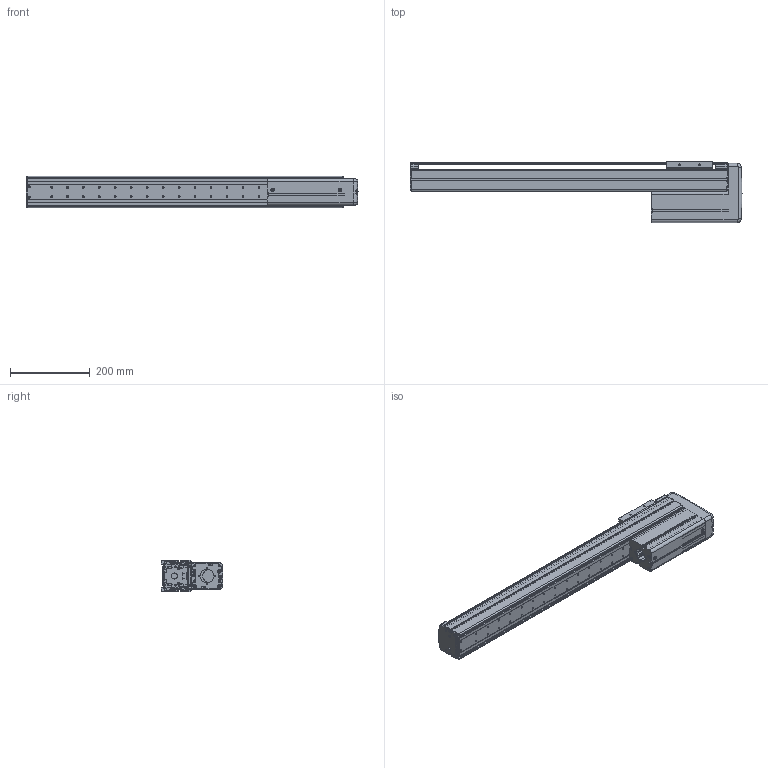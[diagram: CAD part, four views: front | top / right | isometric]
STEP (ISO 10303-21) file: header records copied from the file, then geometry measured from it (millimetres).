
FILE_DESCRIPTION((''),'2;1');
FILE_NAME('BE10E-UU-M_B-60_IGS_PRT','2017-06-17T',(' '),(''),'PRO/ENGINEER BY PARAMETRIC TECHNOLOGY CORPORATION, 2015030','PRO/ENGINEER BY PARAMETRIC TECHNOLOGY CORPORATION, 2015030','');
FILE_SCHEMA(('CONFIG_CONTROL_DESIGN'));
Length unit declared in the file: millimetre
Products named in the file (1): BE10E-UU-M_B-60_IGS_PRT
Bounding box: 832 x 153 x 78 mm (x, y, z)
Volume: 1296501.3 mm3; surface area: 887591.4 mm2
Topology: 2 solids, 113 shells, 1797 faces, 4858 edges, 3150 vertices
Faces by surface type: cylinder 857, plane 712, cone 81, torus 71, sphere 44, bspline 32
Entity records: 58794 total; most frequent: CARTESIAN_POINT 12434, DIRECTION 10054, ORIENTED_EDGE 9222, EDGE_CURVE 4822, AXIS2_PLACEMENT_3D 3746, VERTEX_POINT 3150, VECTOR 2562, LINE 2562
